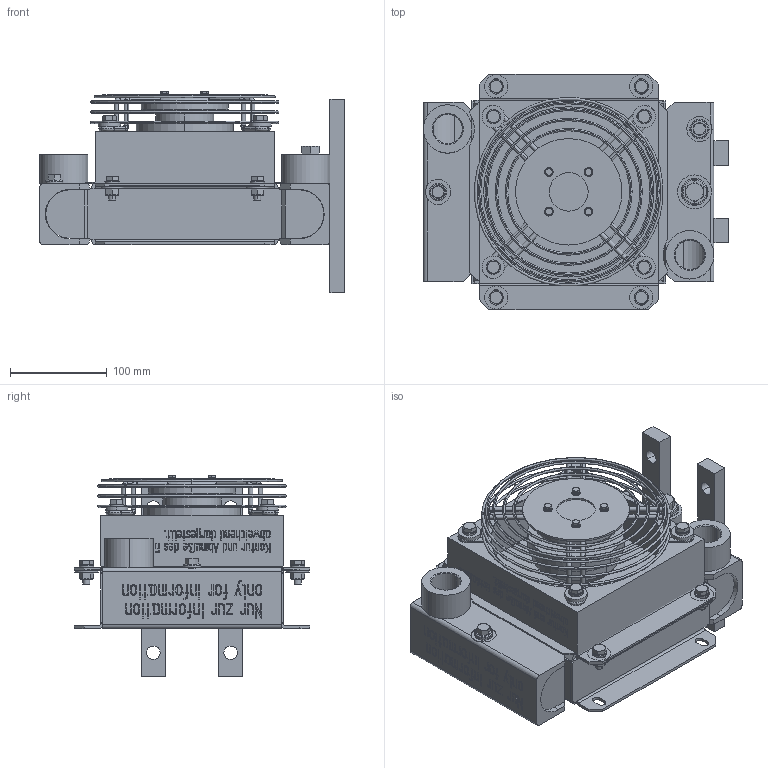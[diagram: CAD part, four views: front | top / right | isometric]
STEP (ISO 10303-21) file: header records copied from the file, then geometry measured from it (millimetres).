
FILE_DESCRIPTION((' '),'1');
FILE_NAME('5200_203_0000.step','2007-09-12 T',(' '),(' '),'STEP Interface v1.0 by CT CoreTechnologie','3D_Evolution v1.0 by CT CoreTechnologie',' ');
FILE_SCHEMA(('AUTOMOTIVE_DESIGN_CC2 { 1 2 10303 214 -1 1 5 2 }'));
Length unit declared in the file: millimetre
Products named in the file (69): 5200_203_0000; Sechskantschraube_ISO_4017-M4x8-8_8-A3B1; Sechskantschraube_ISO_4017-M4x8-8_8-A3B2; Sechskantschraube_ISO_4017-M4x8-8_8-A3B3; Sechskantschraube_ISO_4017-M4x8-8_8-A3B4; 603801; 6035011; 6035012; 6035013; 6035014; 6004031; 6004032; 6004033; 6004034; 603503; Geblase; 6038281; 6038282; 6038283; 6038284; 8402_427_00001; 8402_427_00002; 8402_427_00003; 8402_427_00004; 8402_427_00005; 8402_427_00006; 8402_427_00007; 8402_427_00008; 8402_427_00009; 8402_427_000010; 8402_427_000011; 8402_427_000012; 5200_203_40101; m101; m102; m103; m104; 5200_203_40102; 5200_201_12101; 5200_201_12102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
Assembly tree (95 placements, depth 4):
  5200_203_0000
    Sechskantschraube_ISO_4017-M4x8-8_8-A3B1
    Sechskantschraube_ISO_4017-M4x8-8_8-A3B2
    Sechskantschraube_ISO_4017-M4x8-8_8-A3B3
    Sechskantschraube_ISO_4017-M4x8-8_8-A3B4
    603801  x4
    6035011
    6035012
    6035013
    6035014
    6004031
    6004032
    6004033
    6004034
    603503  x4
    Geblase
    6038281
    6038282
    6038283
    6038284
    8402_427_00001
    8402_427_00002
    8402_427_00003
    8402_427_00004
    8402_427_00005
    8402_427_00006
    8402_427_00007
    8402_427_00008
    8402_427_00009
    8402_427_000010
    8402_427_000011
    8402_427_000012
    5200_203_40101
      m101
      m102
      m103
      m104
      5200_203_40102
    5200_201_12101
    5200_201_12102
    6030041
    6030042
    6030043
    6030044
    Sechskantschraube_ISO_4017-M8x20-8_8-A3B  x8
    603504  x8
    603857  x8
    5200_201_1000
      603250
      603666
      603295
      603655
      603241
      603667
      5200_201_13001
        8421_502_0000-1_Bohrung1
        8423_219_00001
        5200_201_13002
        8421_502_0000-11
      5200_201_12001
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Bounding box: 315.01 x 243 x 208.6 mm (x, y, z)
Volume: 3658209.4 mm3; surface area: 672067.2 mm2
Topology: 90 solids, 90 shells, 2696 faces, 6680 edges, 4312 vertices
Faces by surface type: plane 1532, cylinder 463, bspline 281, cone 212, torus 208
Entity records: 102956 total; most frequent: CARTESIAN_POINT 24827, ORIENTED_EDGE 11932, DIRECTION 10978, EDGE_CURVE 5966, VECTOR 3978, LINE 3978, VERTEX_POINT 3868, AXIS2_PLACEMENT_3D 3500
